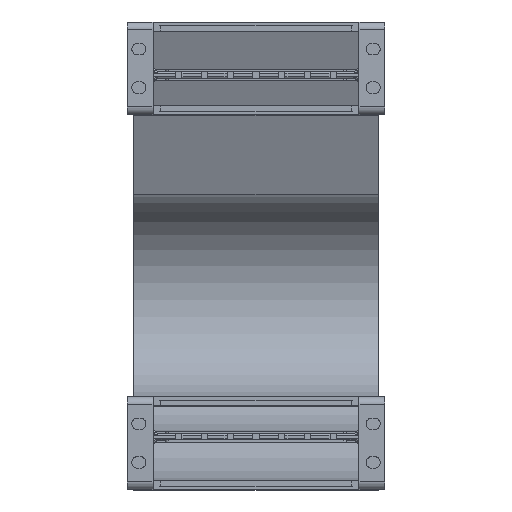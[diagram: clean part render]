
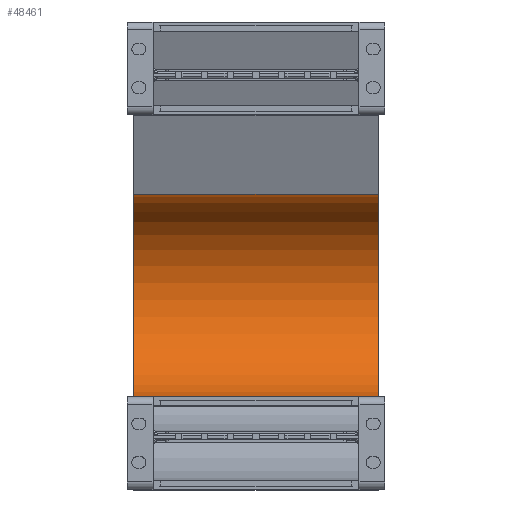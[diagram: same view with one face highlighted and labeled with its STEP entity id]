
A CAD part, top view. The second image highlights one B-rep face of the part: STEP entity #48461.
In plain terms, the highlighted cylindrical face has radius 39.5 mm (diameter 79 mm), a partial arc.
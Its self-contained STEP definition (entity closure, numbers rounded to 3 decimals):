
#47613=DIRECTION('',(-1.,0.,0.));
#47614=VECTOR('',#47613,95.);
#47615=CARTESIAN_POINT('',(47.5,36.,-400.));
#47616=LINE('',#47615,#47614);
#47627=DIRECTION('',(-1.,0.,0.));
#47628=VECTOR('',#47627,95.);
#47629=CARTESIAN_POINT('',(47.5,114.849,-403.448));
#47630=LINE('',#47629,#47628);
#47634=CARTESIAN_POINT('',(47.5,75.5,-400.));
#47635=DIRECTION('',(-1.,0.,0.));
#47636=DIRECTION('',(0.,0.996,-0.087));
#47637=AXIS2_PLACEMENT_3D('',#47634,#47635,#47636);
#47713=CARTESIAN_POINT('',(-47.5,75.5,-400.));
#47714=DIRECTION('',(-1.,0.,0.));
#47715=DIRECTION('',(0.,0.996,-0.087));
#47716=AXIS2_PLACEMENT_3D('',#47713,#47714,#47715);
#47835=CARTESIAN_POINT('',(47.5,114.849,-403.448));
#47836=CARTESIAN_POINT('',(-47.5,114.849,-403.448));
#47837=VERTEX_POINT('',#47835);
#47838=VERTEX_POINT('',#47836);
#47859=CARTESIAN_POINT('',(47.5,36.,-400.));
#47860=CARTESIAN_POINT('',(-47.5,36.,-400.));
#47861=VERTEX_POINT('',#47859);
#47862=VERTEX_POINT('',#47860);
#48447=CARTESIAN_POINT('',(1.,75.5,-400.));
#48448=DIRECTION('',(-1.,0.,0.));
#48449=DIRECTION('',(0.,-0.996,0.087));
#48450=AXIS2_PLACEMENT_3D('',#48447,#48448,#48449);
#48451=CYLINDRICAL_SURFACE('',#48450,39.5);
#48453=ORIENTED_EDGE('',*,*,#48452,.F.);
#48455=ORIENTED_EDGE('',*,*,#48454,.T.);
#48456=ORIENTED_EDGE('',*,*,#48430,.T.);
#48458=ORIENTED_EDGE('',*,*,#48457,.F.);
#48459=EDGE_LOOP('',(#48453,#48455,#48456,#48458));
#48460=FACE_OUTER_BOUND('',#48459,.F.);
#47638=CIRCLE('',#47637,39.5);
#47717=CIRCLE('',#47716,39.5);
#48430=EDGE_CURVE('',#47861,#47862,#47616,.T.);
#48452=EDGE_CURVE('',#47837,#47838,#47630,.T.);
#48454=EDGE_CURVE('',#47837,#47861,#47638,.T.);
#48457=EDGE_CURVE('',#47838,#47862,#47717,.T.);
#48461=ADVANCED_FACE('',(#48460),#48451,.F.);
